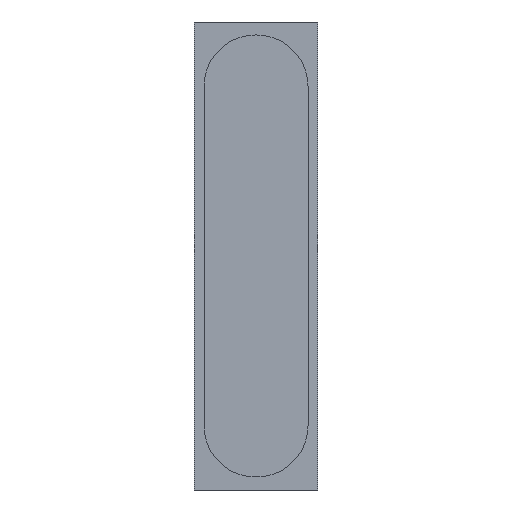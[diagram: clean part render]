
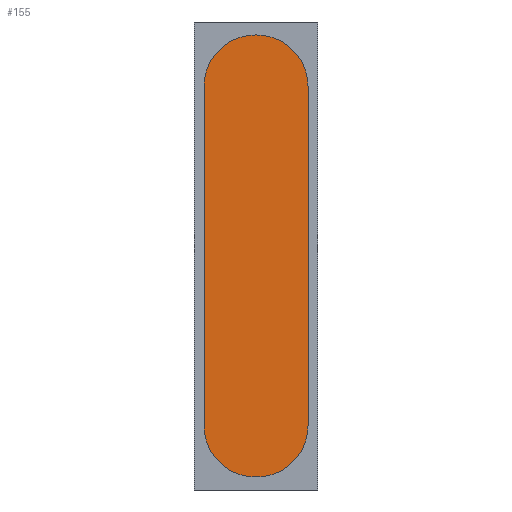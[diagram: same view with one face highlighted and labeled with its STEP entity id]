
A CAD part, left-side view. The second image highlights one B-rep face of the part: STEP entity #155.
In plain terms, the highlighted planar face has unit normal (-1, 0, 0).
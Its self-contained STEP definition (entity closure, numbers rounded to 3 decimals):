
#39 = EDGE_CURVE('',#40,#42,#44,.T.);
#40 = VERTEX_POINT('',#41);
#41 = CARTESIAN_POINT('',(-55.25,-8.,-26.1));
#42 = VERTEX_POINT('',#43);
#43 = CARTESIAN_POINT('',(-55.25,-8.,26.1));
#44 = SURFACE_CURVE('',#45,(#49,#61),.PCURVE_S1.);
#45 = LINE('',#46,#47);
#46 = CARTESIAN_POINT('',(-55.25,-8.,0.));
#47 = VECTOR('',#48,1.);
#48 = DIRECTION('',(0.,0.,1.));
#49 = PCURVE('',#50,#55);
#50 = PLANE('',#51);
#51 = AXIS2_PLACEMENT_3D('',#52,#53,#54);
#52 = CARTESIAN_POINT('',(-55.25,-8.,-26.1));
#53 = DIRECTION('',(0.,-1.,0.));
#54 = DIRECTION('',(0.,0.,1.));
#55 = DEFINITIONAL_REPRESENTATION('',(#56),#60);
#56 = LINE('',#57,#58);
#57 = CARTESIAN_POINT('',(26.1,0.));
#58 = VECTOR('',#59,1.);
#59 = DIRECTION('',(1.,0.));
#60 = ( GEOMETRIC_REPRESENTATION_CONTEXT(2) 
PARAMETRIC_REPRESENTATION_CONTEXT() REPRESENTATION_CONTEXT('2D SPACE',''
  ) );
#61 = PCURVE('',#62,#67);
#62 = PLANE('',#63);
#63 = AXIS2_PLACEMENT_3D('',#64,#65,#66);
#64 = CARTESIAN_POINT('',(-55.25,0.,0.));
#65 = DIRECTION('',(1.,0.,0.));
#66 = DIRECTION('',(0.,1.,0.));
#67 = DEFINITIONAL_REPRESENTATION('',(#68),#72);
#68 = LINE('',#69,#70);
#69 = CARTESIAN_POINT('',(-8.,0.));
#70 = VECTOR('',#71,1.);
#71 = DIRECTION('',(0.,1.));
#72 = ( GEOMETRIC_REPRESENTATION_CONTEXT(2) 
PARAMETRIC_REPRESENTATION_CONTEXT() REPRESENTATION_CONTEXT('2D SPACE',''
  ) );
#90 = CYLINDRICAL_SURFACE('',#91,7.9);
#91 = AXIS2_PLACEMENT_3D('',#92,#93,#94);
#92 = CARTESIAN_POINT('',(-55.25,-0.1,-26.1));
#93 = DIRECTION('',(-1.,0.,0.));
#94 = DIRECTION('',(0.,1.,0.));
#144 = CYLINDRICAL_SURFACE('',#145,7.9);
#145 = AXIS2_PLACEMENT_3D('',#146,#147,#148);
#146 = CARTESIAN_POINT('',(-55.25,-0.1,26.1));
#147 = DIRECTION('',(-1.,0.,0.));
#148 = DIRECTION('',(0.,1.,0.));
#155 = ADVANCED_FACE('',(#156),#62,.F.);
#156 = FACE_BOUND('',#157,.F.);
#157 = EDGE_LOOP('',(#158,#159,#183,#211,#240,#268,#297,#325));
#158 = ORIENTED_EDGE('',*,*,#39,.F.);
#159 = ORIENTED_EDGE('',*,*,#160,.T.);
#160 = EDGE_CURVE('',#40,#161,#163,.T.);
#161 = VERTEX_POINT('',#162);
#162 = CARTESIAN_POINT('',(-55.25,-0.1,-34.));
#163 = SURFACE_CURVE('',#164,(#169,#176),.PCURVE_S1.);
#164 = CIRCLE('',#165,7.9);
#165 = AXIS2_PLACEMENT_3D('',#166,#167,#168);
#166 = CARTESIAN_POINT('',(-55.25,-0.1,-26.1));
#167 = DIRECTION('',(1.,0.,0.));
#168 = DIRECTION('',(0.,1.,0.));
#169 = PCURVE('',#62,#170);
#170 = DEFINITIONAL_REPRESENTATION('',(#171),#175);
#171 = CIRCLE('',#172,7.9);
#172 = AXIS2_PLACEMENT_2D('',#173,#174);
#173 = CARTESIAN_POINT('',(-0.1,-26.1));
#174 = DIRECTION('',(1.,0.));
#175 = ( GEOMETRIC_REPRESENTATION_CONTEXT(2) 
PARAMETRIC_REPRESENTATION_CONTEXT() REPRESENTATION_CONTEXT('2D SPACE',''
  ) );
#176 = PCURVE('',#90,#177);
#177 = DEFINITIONAL_REPRESENTATION('',(#178),#182);
#178 = LINE('',#179,#180);
#179 = CARTESIAN_POINT('',(6.283,0.));
#180 = VECTOR('',#181,1.);
#181 = DIRECTION('',(-1.,0.));
#182 = ( GEOMETRIC_REPRESENTATION_CONTEXT(2) 
PARAMETRIC_REPRESENTATION_CONTEXT() REPRESENTATION_CONTEXT('2D SPACE',''
  ) );
#183 = ORIENTED_EDGE('',*,*,#184,.T.);
#184 = EDGE_CURVE('',#161,#185,#187,.T.);
#185 = VERTEX_POINT('',#186);
#186 = CARTESIAN_POINT('',(-55.25,0.1,-34.));
#187 = SURFACE_CURVE('',#188,(#192,#199),.PCURVE_S1.);
#188 = LINE('',#189,#190);
#189 = CARTESIAN_POINT('',(-55.25,0.,-34.));
#190 = VECTOR('',#191,1.);
#191 = DIRECTION('',(0.,1.,0.));
#192 = PCURVE('',#62,#193);
#193 = DEFINITIONAL_REPRESENTATION('',(#194),#198);
#194 = LINE('',#195,#196);
#195 = CARTESIAN_POINT('',(0.,-34.));
#196 = VECTOR('',#197,1.);
#197 = DIRECTION('',(1.,0.));
#198 = ( GEOMETRIC_REPRESENTATION_CONTEXT(2) 
PARAMETRIC_REPRESENTATION_CONTEXT() REPRESENTATION_CONTEXT('2D SPACE',''
  ) );
#199 = PCURVE('',#200,#205);
#200 = PLANE('',#201);
#201 = AXIS2_PLACEMENT_3D('',#202,#203,#204);
#202 = CARTESIAN_POINT('',(-55.25,-0.1,-34.));
#203 = DIRECTION('',(0.,0.,1.));
#204 = DIRECTION('',(0.,1.,-0.));
#205 = DEFINITIONAL_REPRESENTATION('',(#206),#210);
#206 = LINE('',#207,#208);
#207 = CARTESIAN_POINT('',(0.1,0.));
#208 = VECTOR('',#209,1.);
#209 = DIRECTION('',(1.,0.));
#210 = ( GEOMETRIC_REPRESENTATION_CONTEXT(2) 
PARAMETRIC_REPRESENTATION_CONTEXT() REPRESENTATION_CONTEXT('2D SPACE',''
  ) );
#211 = ORIENTED_EDGE('',*,*,#212,.T.);
#212 = EDGE_CURVE('',#185,#213,#215,.T.);
#213 = VERTEX_POINT('',#214);
#214 = CARTESIAN_POINT('',(-55.25,8.,-26.1));
#215 = SURFACE_CURVE('',#216,(#221,#228),.PCURVE_S1.);
#216 = CIRCLE('',#217,7.9);
#217 = AXIS2_PLACEMENT_3D('',#218,#219,#220);
#218 = CARTESIAN_POINT('',(-55.25,0.1,-26.1));
#219 = DIRECTION('',(1.,0.,0.));
#220 = DIRECTION('',(0.,1.,0.));
#221 = PCURVE('',#62,#222);
#222 = DEFINITIONAL_REPRESENTATION('',(#223),#227);
#223 = CIRCLE('',#224,7.9);
#224 = AXIS2_PLACEMENT_2D('',#225,#226);
#225 = CARTESIAN_POINT('',(0.1,-26.1));
#226 = DIRECTION('',(1.,0.));
#227 = ( GEOMETRIC_REPRESENTATION_CONTEXT(2) 
PARAMETRIC_REPRESENTATION_CONTEXT() REPRESENTATION_CONTEXT('2D SPACE',''
  ) );
#228 = PCURVE('',#229,#234);
#229 = CYLINDRICAL_SURFACE('',#230,7.9);
#230 = AXIS2_PLACEMENT_3D('',#231,#232,#233);
#231 = CARTESIAN_POINT('',(-55.25,0.1,-26.1));
#232 = DIRECTION('',(-1.,0.,0.));
#233 = DIRECTION('',(0.,1.,0.));
#234 = DEFINITIONAL_REPRESENTATION('',(#235),#239);
#235 = LINE('',#236,#237);
#236 = CARTESIAN_POINT('',(6.283,0.));
#237 = VECTOR('',#238,1.);
#238 = DIRECTION('',(-1.,0.));
#239 = ( GEOMETRIC_REPRESENTATION_CONTEXT(2) 
PARAMETRIC_REPRESENTATION_CONTEXT() REPRESENTATION_CONTEXT('2D SPACE',''
  ) );
#240 = ORIENTED_EDGE('',*,*,#241,.T.);
#241 = EDGE_CURVE('',#213,#242,#244,.T.);
#242 = VERTEX_POINT('',#243);
#243 = CARTESIAN_POINT('',(-55.25,8.,26.1));
#244 = SURFACE_CURVE('',#245,(#249,#256),.PCURVE_S1.);
#245 = LINE('',#246,#247);
#246 = CARTESIAN_POINT('',(-55.25,8.,0.));
#247 = VECTOR('',#248,1.);
#248 = DIRECTION('',(0.,0.,1.));
#249 = PCURVE('',#62,#250);
#250 = DEFINITIONAL_REPRESENTATION('',(#251),#255);
#251 = LINE('',#252,#253);
#252 = CARTESIAN_POINT('',(8.,0.));
#253 = VECTOR('',#254,1.);
#254 = DIRECTION('',(0.,1.));
#255 = ( GEOMETRIC_REPRESENTATION_CONTEXT(2) 
PARAMETRIC_REPRESENTATION_CONTEXT() REPRESENTATION_CONTEXT('2D SPACE',''
  ) );
#256 = PCURVE('',#257,#262);
#257 = PLANE('',#258);
#258 = AXIS2_PLACEMENT_3D('',#259,#260,#261);
#259 = CARTESIAN_POINT('',(-55.25,8.,-26.1));
#260 = DIRECTION('',(0.,-1.,0.));
#261 = DIRECTION('',(0.,0.,1.));
#262 = DEFINITIONAL_REPRESENTATION('',(#263),#267);
#263 = LINE('',#264,#265);
#264 = CARTESIAN_POINT('',(26.1,0.));
#265 = VECTOR('',#266,1.);
#266 = DIRECTION('',(1.,0.));
#267 = ( GEOMETRIC_REPRESENTATION_CONTEXT(2) 
PARAMETRIC_REPRESENTATION_CONTEXT() REPRESENTATION_CONTEXT('2D SPACE',''
  ) );
#268 = ORIENTED_EDGE('',*,*,#269,.T.);
#269 = EDGE_CURVE('',#242,#270,#272,.T.);
#270 = VERTEX_POINT('',#271);
#271 = CARTESIAN_POINT('',(-55.25,0.1,34.));
#272 = SURFACE_CURVE('',#273,(#278,#285),.PCURVE_S1.);
#273 = CIRCLE('',#274,7.9);
#274 = AXIS2_PLACEMENT_3D('',#275,#276,#277);
#275 = CARTESIAN_POINT('',(-55.25,0.1,26.1));
#276 = DIRECTION('',(1.,0.,0.));
#277 = DIRECTION('',(0.,1.,0.));
#278 = PCURVE('',#62,#279);
#279 = DEFINITIONAL_REPRESENTATION('',(#280),#284);
#280 = CIRCLE('',#281,7.9);
#281 = AXIS2_PLACEMENT_2D('',#282,#283);
#282 = CARTESIAN_POINT('',(0.1,26.1));
#283 = DIRECTION('',(1.,0.));
#284 = ( GEOMETRIC_REPRESENTATION_CONTEXT(2) 
PARAMETRIC_REPRESENTATION_CONTEXT() REPRESENTATION_CONTEXT('2D SPACE',''
  ) );
#285 = PCURVE('',#286,#291);
#286 = CYLINDRICAL_SURFACE('',#287,7.9);
#287 = AXIS2_PLACEMENT_3D('',#288,#289,#290);
#288 = CARTESIAN_POINT('',(-55.25,0.1,26.1));
#289 = DIRECTION('',(-1.,0.,0.));
#290 = DIRECTION('',(0.,1.,0.));
#291 = DEFINITIONAL_REPRESENTATION('',(#292),#296);
#292 = LINE('',#293,#294);
#293 = CARTESIAN_POINT('',(6.283,0.));
#294 = VECTOR('',#295,1.);
#295 = DIRECTION('',(-1.,0.));
#296 = ( GEOMETRIC_REPRESENTATION_CONTEXT(2) 
PARAMETRIC_REPRESENTATION_CONTEXT() REPRESENTATION_CONTEXT('2D SPACE',''
  ) );
#297 = ORIENTED_EDGE('',*,*,#298,.F.);
#298 = EDGE_CURVE('',#299,#270,#301,.T.);
#299 = VERTEX_POINT('',#300);
#300 = CARTESIAN_POINT('',(-55.25,-0.1,34.));
#301 = SURFACE_CURVE('',#302,(#306,#313),.PCURVE_S1.);
#302 = LINE('',#303,#304);
#303 = CARTESIAN_POINT('',(-55.25,0.,34.));
#304 = VECTOR('',#305,1.);
#305 = DIRECTION('',(0.,1.,0.));
#306 = PCURVE('',#62,#307);
#307 = DEFINITIONAL_REPRESENTATION('',(#308),#312);
#308 = LINE('',#309,#310);
#309 = CARTESIAN_POINT('',(0.,34.));
#310 = VECTOR('',#311,1.);
#311 = DIRECTION('',(1.,0.));
#312 = ( GEOMETRIC_REPRESENTATION_CONTEXT(2) 
PARAMETRIC_REPRESENTATION_CONTEXT() REPRESENTATION_CONTEXT('2D SPACE',''
  ) );
#313 = PCURVE('',#314,#319);
#314 = PLANE('',#315);
#315 = AXIS2_PLACEMENT_3D('',#316,#317,#318);
#316 = CARTESIAN_POINT('',(-55.25,-0.1,34.));
#317 = DIRECTION('',(0.,0.,1.));
#318 = DIRECTION('',(0.,1.,-0.));
#319 = DEFINITIONAL_REPRESENTATION('',(#320),#324);
#320 = LINE('',#321,#322);
#321 = CARTESIAN_POINT('',(0.1,0.));
#322 = VECTOR('',#323,1.);
#323 = DIRECTION('',(1.,0.));
#324 = ( GEOMETRIC_REPRESENTATION_CONTEXT(2) 
PARAMETRIC_REPRESENTATION_CONTEXT() REPRESENTATION_CONTEXT('2D SPACE',''
  ) );
#325 = ORIENTED_EDGE('',*,*,#326,.T.);
#326 = EDGE_CURVE('',#299,#42,#327,.T.);
#327 = SURFACE_CURVE('',#328,(#333,#340),.PCURVE_S1.);
#328 = CIRCLE('',#329,7.9);
#329 = AXIS2_PLACEMENT_3D('',#330,#331,#332);
#330 = CARTESIAN_POINT('',(-55.25,-0.1,26.1));
#331 = DIRECTION('',(1.,0.,0.));
#332 = DIRECTION('',(0.,1.,0.));
#333 = PCURVE('',#62,#334);
#334 = DEFINITIONAL_REPRESENTATION('',(#335),#339);
#335 = CIRCLE('',#336,7.9);
#336 = AXIS2_PLACEMENT_2D('',#337,#338);
#337 = CARTESIAN_POINT('',(-0.1,26.1));
#338 = DIRECTION('',(1.,0.));
#339 = ( GEOMETRIC_REPRESENTATION_CONTEXT(2) 
PARAMETRIC_REPRESENTATION_CONTEXT() REPRESENTATION_CONTEXT('2D SPACE',''
  ) );
#340 = PCURVE('',#144,#341);
#341 = DEFINITIONAL_REPRESENTATION('',(#342),#346);
#342 = LINE('',#343,#344);
#343 = CARTESIAN_POINT('',(6.283,0.));
#344 = VECTOR('',#345,1.);
#345 = DIRECTION('',(-1.,0.));
#346 = ( GEOMETRIC_REPRESENTATION_CONTEXT(2) 
PARAMETRIC_REPRESENTATION_CONTEXT() REPRESENTATION_CONTEXT('2D SPACE',''
  ) );
